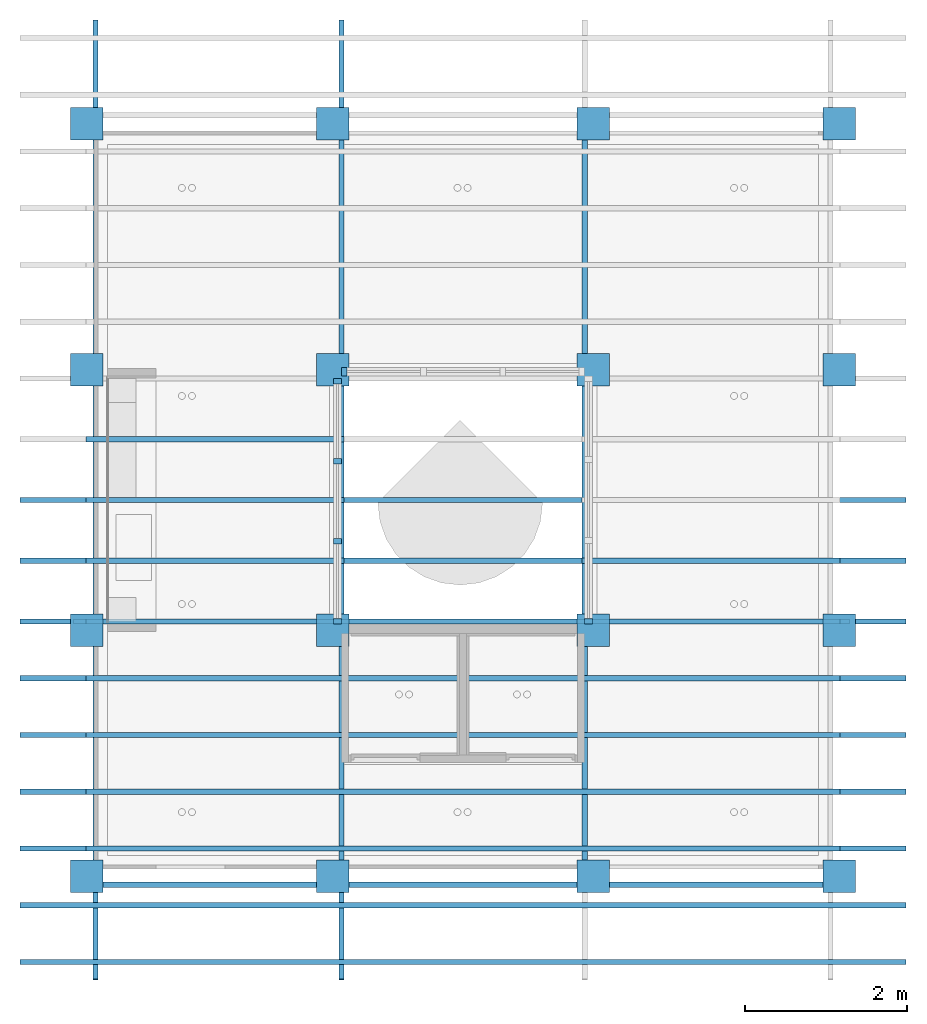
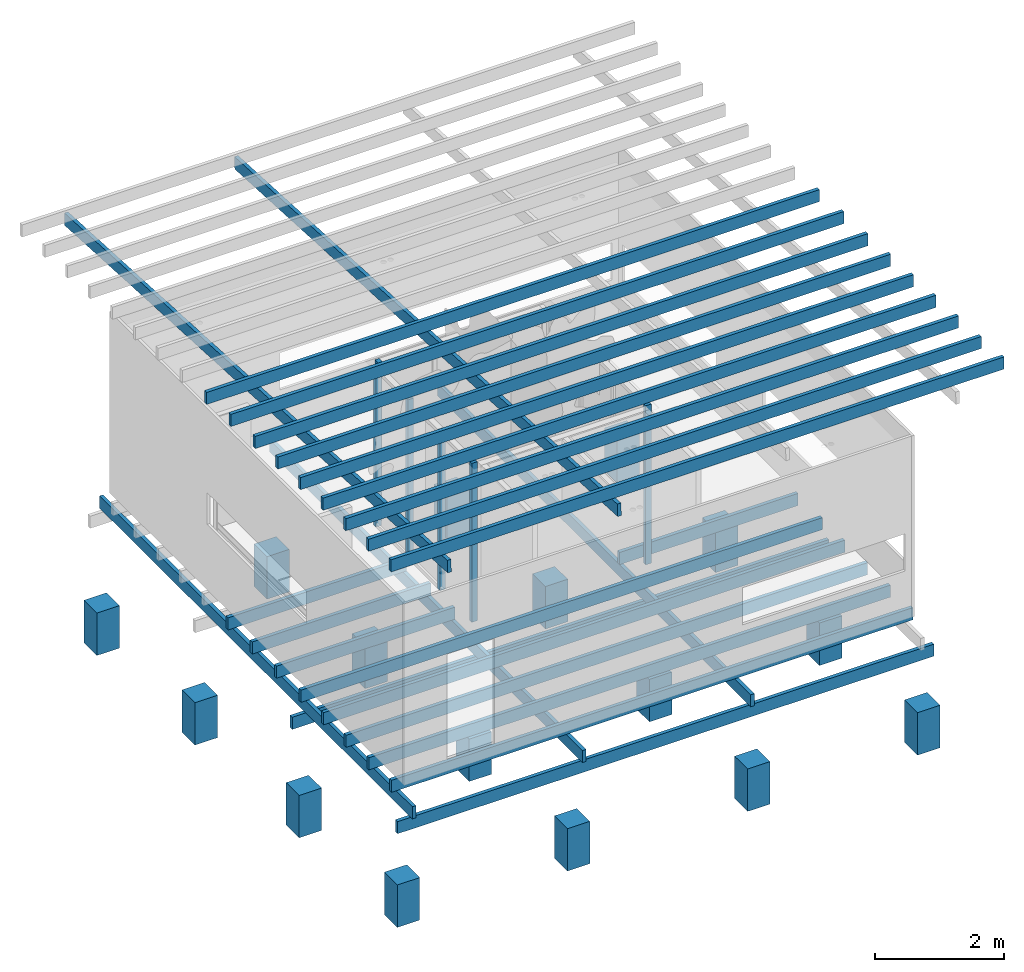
# One storey, part 1 of 5: 26 beams, 16 footings, 6 members, 3 elements without a shape of their own.
"""IFC2X3 building model written with IfcOpenShell, lengths in centimetres."""

import ifcopenshell
import ifcopenshell.guid

model = None  # the IFC model being written
_history = None  # IfcOwnerHistory: only IFC2X3 demands one
_inside = {}  # id of a spatial element -> (the spatial element, [elements in it])
_under = {}  # id of a project, library or spatial element -> (it, [spatial elements below it])
_declared = {}  # id of a project -> (the project, [libraries it declares])
_typed = {}  # id of a type object -> (the type object, [elements of that type])
_made_of = {}  # id of a material, layer set ... -> (it, [elements and type objects made of it])


def new_model(schema):
    """Start an empty IFC model of exactly this schema.

    Asked for "IFC4X3", IfcOpenShell would pick the latest addendum, in which some entities
    have other attributes; the version numbers below select the first issue.
    IFC2X3 requires an IfcOwnerHistory on every rooted entity: one is made here for all.
    """
    global model, _history
    if schema == "IFC4X3":
        model = ifcopenshell.file(schema_version=(4, 3, 0, 0))
    else:
        model = ifcopenshell.file(schema=schema)
    _inside.clear()
    _under.clear()
    _declared.clear()
    _typed.clear()
    _made_of.clear()
    _history = None
    if model.schema == "IFC2X3":
        org = make("IfcOrganization", Name="unknown")
        user = make(
            "IfcPersonAndOrganization",
            ThePerson=make("IfcPerson", FamilyName="unknown"),
            TheOrganization=org,
        )
        app = make(
            "IfcApplication",
            ApplicationDeveloper=org,
            Version="unknown",
            ApplicationFullName="unknown",
            ApplicationIdentifier="unknown",
        )
        _history = make(
            "IfcOwnerHistory",
            OwningUser=user,
            OwningApplication=app,
            ChangeAction="ADDED",
            CreationDate=0,
        )
    return model


def make(cls, **values):
    """One entity of the class cls with the attributes given. An attribute that is None is left unset."""
    return model.create_entity(
        cls, **{name: value for name, value in values.items() if value is not None}
    )


def entity(cls, *values):
    """Any entity or typed value of the class cls, its attributes in the order of the schema. None: left unset."""
    e = model.create_entity(cls)
    for i, value in enumerate(values):
        if value is not None:
            e[i] = value
    return e


def rooted(cls, **values):
    """An entity with a GlobalId (a new one), such as an element, a storey or a relation."""
    return make(cls, GlobalId=ifcopenshell.guid.new(), OwnerHistory=_history, **values)


def si_unit(unit_type, name, prefix=None):
    """IfcSIUnit, for example si_unit("LENGTHUNIT", "METRE", prefix="MILLI")."""
    return make("IfcSIUnit", UnitType=unit_type, Prefix=prefix, Name=name)


def converted_unit(unit_type, name, factor, base, dimensions=None, offset=None):
    """IfcConversionBasedUnit, such as the inch: factor (a typed value) times the base unit."""
    return make(
        "IfcConversionBasedUnit"
        if offset is None
        else "IfcConversionBasedUnitWithOffset",
        ConversionOffset=offset,
        Dimensions=None
        if dimensions is None
        else entity("IfcDimensionalExponents", *dimensions),
        UnitType=unit_type,
        Name=name,
        ConversionFactor=make(
            "IfcMeasureWithUnit", ValueComponent=factor, UnitComponent=base
        ),
    )


def derived_unit(unit_type, elements):
    """IfcDerivedUnit: a product of units, each with its exponent."""
    return make(
        "IfcDerivedUnit",
        Elements=[
            make("IfcDerivedUnitElement", Unit=unit, Exponent=power)
            for unit, power in elements
        ],
        UnitType=unit_type,
    )


def assignment(units):
    """IfcUnitAssignment: the units of a project."""
    return None if units is None else make("IfcUnitAssignment", Units=units)


def point(xyz):
    """IfcCartesianPoint."""
    return None if xyz is None else make("IfcCartesianPoint", Coordinates=xyz)


def direction(xyz):
    """IfcDirection."""
    return None if xyz is None else make("IfcDirection", DirectionRatios=xyz)


def frame(location, z_axis=None, x_axis=None):
    """IfcAxis2Placement3D, a coordinate frame: its origin and axes. An axis left out is left unset."""
    return make(
        "IfcAxis2Placement3D",
        Location=point(location),
        Axis=direction(z_axis),
        RefDirection=direction(x_axis),
    )


def frame_2d(location, x_axis=None):
    """IfcAxis2Placement2D, a coordinate frame in the plane: its origin and x axis."""
    return make(
        "IfcAxis2Placement2D", Location=point(location), RefDirection=direction(x_axis)
    )


def origin():
    """The frame at (0, 0, 0) with its axes left unset."""
    return frame((0.0, 0.0, 0.0))


def origin_2d_with_axis():
    """The frame at (0, 0) in the plane with the x axis (1, 0) written out."""
    return frame_2d((0.0, 0.0), x_axis=(1.0, 0.0))


def place(relative_to, where):
    """IfcLocalPlacement: puts the frame where relative to a parent placement (None: the world)."""
    return make(
        "IfcLocalPlacement", PlacementRelTo=relative_to, RelativePlacement=where
    )


def context(
    kind, dimensions, precision=None, world=None, true_north=None, identifier=None
):
    """IfcGeometricRepresentationContext, for example the 3D "Model" context."""
    return make(
        "IfcGeometricRepresentationContext",
        ContextIdentifier=identifier,
        ContextType=kind,
        CoordinateSpaceDimension=dimensions,
        Precision=precision,
        WorldCoordinateSystem=world,
        TrueNorth=true_north,
    )


def subcontext(parent, identifier, kind, view, scale=None):
    """IfcGeometricRepresentationSubContext, for example "Body" below "Model"."""
    return make(
        "IfcGeometricRepresentationSubContext",
        ContextIdentifier=identifier,
        ContextType=kind,
        ParentContext=parent,
        TargetScale=scale,
        TargetView=view,
    )


def project(units=None, contexts=None):
    """IfcProject with its units and contexts."""
    return rooted(
        "IfcProject",
        Name="project",
        RepresentationContexts=contexts,
        UnitsInContext=assignment(units),
    )


def spatial(cls, under=None, at=None, **own):
    """A site, building, storey or space (cls), placed at a placement, below another one or the project."""
    s = rooted(cls, ObjectPlacement=at, **own)
    if under is not None:
        _under.setdefault(under.id(), (under, []))[1].append(s)
    return s


def profile(cls, at=None, kind="AREA", **sizes):
    """A parametric profile (cls). Its sizes go by their IFC names, for example OverallWidth=200.0."""
    return make(cls, ProfileType=kind, Position=at, **sizes)


def rectangle(**sizes):
    """IfcRectangleProfileDef."""
    return profile("IfcRectangleProfileDef", **sizes)


def extrude(swept, where, along, depth):
    """IfcExtrudedAreaSolid: the profile swept, set in the frame where, extruded along a direction by depth."""
    return make(
        "IfcExtrudedAreaSolid",
        SweptArea=swept,
        Position=where,
        ExtrudedDirection=direction(along),
        Depth=depth,
    )


def shape(context_of_items, identifier, shape_type, items):
    """IfcShapeRepresentation: the items that make up one representation, for example the "Body"."""
    return make(
        "IfcShapeRepresentation",
        ContextOfItems=context_of_items,
        RepresentationIdentifier=identifier,
        RepresentationType=shape_type,
        Items=items,
    )


def source(mapping_origin, context_of_items, identifier, shape_type, items):
    """IfcRepresentationMap: a shape defined once, which mapped items show again and again."""
    return make(
        "IfcRepresentationMap",
        MappingOrigin=mapping_origin,
        MappedRepresentation=shape(context_of_items, identifier, shape_type, items),
    )


def transform(
    local_origin,
    x_axis=None,
    y_axis=None,
    z_axis=None,
    scale=None,
    scale2=None,
    scale3=None,
    uniform=True,
):
    """IfcCartesianTransformationOperator3D, or its non-uniform kind. x_axis, y_axis, z_axis: its Axis1, 2, 3."""
    if uniform:
        return make(
            "IfcCartesianTransformationOperator3D",
            Axis1=direction(x_axis),
            Axis2=direction(y_axis),
            LocalOrigin=point(local_origin),
            Scale=scale,
            Axis3=direction(z_axis),
        )
    return make(
        "IfcCartesianTransformationOperator3DnonUniform",
        Axis1=direction(x_axis),
        Axis2=direction(y_axis),
        LocalOrigin=point(local_origin),
        Scale=scale,
        Axis3=direction(z_axis),
        Scale2=scale2,
        Scale3=scale3,
    )


def mapped(mapping_source, mapping_target):
    """IfcMappedItem: shows the shape of a source again, moved by a transform."""
    return make(
        "IfcMappedItem", MappingSource=mapping_source, MappingTarget=mapping_target
    )


def material(Name=None, Category=None):
    """IfcMaterial."""
    return make("IfcMaterial", Name=Name, Category=Category)


def made_of(thing, what):
    """Note that an element or type object is made of a material, layer set ...; save() writes the relation."""
    if what is not None:
        _made_of.setdefault(what.id(), (what, []))[1].append(thing)
    return thing


def type_object(cls, material=None, **own):
    """A type object (cls), such as IfcWallType, which elements share."""
    return made_of(rooted(cls, **own), material)


def type_shapes(of_type, sources):
    """Give a type object the sources (RepresentationMaps) that its elements show as mapped items."""
    of_type.RepresentationMaps = sources


def element(
    cls,
    number,
    at=None,
    inside=None,
    cuts=None,
    type_object=None,
    material=None,
    context=None,
    identifier="Body",
    shape_type=None,
    held_by="IfcProductDefinitionShape",
    body=None,
    shapes=None,
    **own,
):
    """One element of the class cls, such as IfcWall. Its Tag is "e" and its number.

    at: its placement. inside: the storey or other place that contains it. cuts: it is an
    opening in that element (IfcRelVoidsElement). A single representation is given by context,
    identifier, shape_type and body (its items); several are given by shapes. held_by: the class
    of the entity that holds the representations. save() writes the other relations.
    """
    e = rooted(cls, Tag="e%d" % number, ObjectPlacement=at, **own)
    if body is not None:
        shapes = [shape(context, identifier, shape_type, body)]
    if shapes is not None:
        e.Representation = make(held_by, Representations=shapes)
    if inside is not None:
        _inside.setdefault(inside.id(), (inside, []))[1].append(e)
    if cuts is not None:
        rooted(
            "IfcRelVoidsElement", RelatingBuildingElement=cuts, RelatedOpeningElement=e
        )
    if type_object is not None:
        _typed.setdefault(type_object.id(), (type_object, []))[1].append(e)
    return made_of(e, material)


def aggregate(whole, parts):
    """IfcRelAggregates: a whole, such as a stair, and the parts it consists of."""
    return rooted("IfcRelAggregates", RelatingObject=whole, RelatedObjects=parts)


def save(model, path):
    """Write the relations noted so far, then the file.

    IfcRelAggregates (storeys below a building ...), IfcRelContainedInSpatialStructure (elements
    in a storey), IfcRelDefinesByType, IfcRelAssociatesMaterial and IfcRelDeclares: one each for
    every whole, place, type object, material and project.
    """
    for whole, parts in _under.values():
        aggregate(whole, parts)
    for where, things in _inside.values():
        rooted(
            "IfcRelContainedInSpatialStructure",
            RelatedElements=things,
            RelatingStructure=where,
        )
    for kind, things in _typed.values():
        rooted("IfcRelDefinesByType", RelatedObjects=things, RelatingType=kind)
    for what, things in _made_of.values():
        rooted("IfcRelAssociatesMaterial", RelatedObjects=things, RelatingMaterial=what)
    for by, libraries in _declared.values():
        rooted("IfcRelDeclares", RelatingContext=by, RelatedDefinitions=libraries)
    model.write(path)


model = new_model("IFC2X3")

# Units and contexts
model_context = context("Model", 3, precision=0.001, world=origin(), true_north=direction((6.123233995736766e-17, 1.0)))
body_context = subcontext(model_context, "Body", "Model", "MODEL_VIEW")
ifc_project = project(units=[si_unit("LENGTHUNIT", "METRE", prefix="CENTI"), si_unit("AREAUNIT", "SQUARE_METRE"), si_unit("VOLUMEUNIT", "CUBIC_METRE"), converted_unit("PLANEANGLEUNIT", "DEGREE", entity("IfcPlaneAngleMeasure", 0.017453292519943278), si_unit("PLANEANGLEUNIT", "RADIAN"), dimensions=[0, 0, 0, 0, 0, 0, 0]), si_unit("POWERUNIT", "WATT"), derived_unit("USERDEFINED", [(si_unit("MASSUNIT", "GRAM", prefix="KILO"), 1), (si_unit("TIMEUNIT", "SECOND"), -3)]), si_unit("FORCEUNIT", "NEWTON", prefix="KILO"), derived_unit("THERMALTRANSMITTANCEUNIT", [(si_unit("MASSUNIT", "GRAM", prefix="KILO"), 1), (si_unit("TIMEUNIT", "SECOND"), -3), (si_unit("THERMODYNAMICTEMPERATUREUNIT", "KELVIN"), -1)]), derived_unit("USERDEFINED", [(si_unit("MASSUNIT", "GRAM", prefix="KILO"), 1), (si_unit("THERMODYNAMICTEMPERATUREUNIT", "KELVIN"), -1), (si_unit("TIMEUNIT", "SECOND"), -2)]), derived_unit("THERMALRESISTANCEUNIT", [(si_unit("MASSUNIT", "GRAM", prefix="KILO"), -1), (si_unit("TIMEUNIT", "SECOND"), 3), (si_unit("THERMODYNAMICTEMPERATUREUNIT", "KELVIN"), 1)]), derived_unit("USERDEFINED", [(si_unit("MASSUNIT", "GRAM", prefix="KILO"), -1), (si_unit("TIMEUNIT", "SECOND"), 3), (si_unit("LENGTHUNIT", "METRE"), -2), (si_unit("LUMINOUSFLUXUNIT", "LUMEN"), 1)]), si_unit("LUMINOUSFLUXUNIT", "LUMEN")], contexts=[model_context])

# Site, building, storey
site_placement = place(None, origin())
site = spatial("IfcSite", under=ifc_project, at=site_placement, Name="Default", CompositionType="ELEMENT")
building_placement = place(site_placement, origin())
building = spatial("IfcBuilding", under=site, at=building_placement, Name="Workshop Hbaitáculo - Refugio Tierra del Fuego", CompositionType="ELEMENT")
storey_placement = place(building_placement, frame((0.0, 0.0, 100.0)))
storey = spatial("IfcBuildingStorey", under=building, at=storey_placement, Name="NOG_PISO 1", CompositionType="ELEMENT", Elevation=100.0)

# Footings
ifc_material_1 = material(Name="Concrete, Cast-in-Place gray")
type_product_1 = type_object("IfcTypeProduct", Name="Footing-Rectangular:80X40X40cm", material=ifc_material_1)
shared_shape_1 = source(origin(), body_context, "Body", "SweptSolid", [
    extrude(rectangle(XDim=39.99999999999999, YDim=40.0, at=origin_2d_with_axis()), frame((0.0, 0.0, -80.0), z_axis=(0.0, 0.0, 1.0), x_axis=(-1.0, 0.0, 0.0)), (0.0, 0.0, 1.0), 80.0),
])
type_shapes(type_product_1, [shared_shape_1])
for number, where, name in (
    (1, (914.0000000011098, -605.0, -160.0), "Footing-Rectangular:80X40X40cm"),
    (2, (610.7500000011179, -605.0, -160.0), "Footing-Rectangular:80X40X40cm"),
    (3, (289.2499999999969, -605.0, -160.0), "Footing-Rectangular:80X40X40cm"),
    (4, (-14.0, -605.0, -160.0), "Footing-Rectangular:80X40X40cm"),
):
    element("IfcFooting", number, at=place(storey_placement, frame(where)), inside=storey, type_object=type_product_1, material=ifc_material_1, Name=name, ObjectType="Footing-Rectangular:80X40X40cm", PredefinedType="NOTDEFINED", context=body_context, shape_type="MappedRepresentation", body=[
        mapped(shared_shape_1, transform((0.0, 0.0, 0.0), scale=1.0)),
    ])
type_product_2 = type_object("IfcTypeProduct", Name="Footing-Rectangular:80X40X40cm", material=ifc_material_1)
shared_shape_2 = source(origin(), body_context, "Body", "SweptSolid", [
    extrude(rectangle(XDim=40.0, YDim=40.0, at=origin_2d_with_axis()), frame((914.00000000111, -301.75000000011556, -155.0), z_axis=(0.0, 0.0, 1.0), x_axis=(-1.0, 0.0, 0.0)), (0.0, 0.0, 1.0), 80.0),
])
type_shapes(type_product_2, [shared_shape_2])
footing_1_placement = place(storey_placement, frame((0.0, 0.0, -100.0)))
element("IfcFooting", 5, at=footing_1_placement, inside=storey, type_object=type_product_2, material=ifc_material_1, Name="Footing-Rectangular:80X40X40cm", ObjectType="Footing-Rectangular:80X40X40cm", PredefinedType="NOTDEFINED", context=body_context, shape_type="MappedRepresentation", body=[
    mapped(shared_shape_2, transform((0.0, 0.0, 0.0), scale=1.0)),
])
type_product_3 = type_object("IfcTypeProduct", Name="Footing-Rectangular:80X40X40cm", material=ifc_material_1)
shared_shape_3 = source(origin(), body_context, "Body", "SweptSolid", [
    extrude(rectangle(XDim=40.0, YDim=40.0, at=origin_2d_with_axis()), frame((914.0000000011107, 19.74999999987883, -175.0), z_axis=(0.0, 0.0, 1.0), x_axis=(-1.0, 0.0, 0.0)), (0.0, 0.0, 1.0), 80.0),
])
type_shapes(type_product_3, [shared_shape_3])
footing_2_placement = place(storey_placement, frame((0.0, 0.0, -100.0)))
element("IfcFooting", 6, at=footing_2_placement, inside=storey, type_object=type_product_3, material=ifc_material_1, Name="Footing-Rectangular:80X40X40cm", ObjectType="Footing-Rectangular:80X40X40cm", PredefinedType="NOTDEFINED", context=body_context, shape_type="MappedRepresentation", body=[
    mapped(shared_shape_3, transform((0.0, 0.0, 0.0), scale=1.0)),
])
type_product_4 = type_object("IfcTypeProduct", Name="Footing-Rectangular:80X40X40cm", material=ifc_material_1)
shared_shape_4 = source(origin(), body_context, "Body", "SweptSolid", [
    extrude(rectangle(XDim=40.0, YDim=40.0, at=origin_2d_with_axis()), frame((914.0000000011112, 323.0, -190.0), z_axis=(0.0, 0.0, 1.0), x_axis=(-1.0, 0.0, 0.0)), (0.0, 0.0, 1.0), 80.0),
])
type_shapes(type_product_4, [shared_shape_4])
footing_3_placement = place(storey_placement, frame((0.0, 0.0, -100.0)))
element("IfcFooting", 7, at=footing_3_placement, inside=storey, type_object=type_product_4, material=ifc_material_1, Name="Footing-Rectangular:80X40X40cm", ObjectType="Footing-Rectangular:80X40X40cm", PredefinedType="NOTDEFINED", context=body_context, shape_type="MappedRepresentation", body=[
    mapped(shared_shape_4, transform((0.0, 0.0, 0.0), scale=1.0)),
])
type_product_5 = type_object("IfcTypeProduct", Name="Footing-Rectangular:80X40X40cm", material=ifc_material_1)
shared_shape_5 = source(origin(), body_context, "Body", "SweptSolid", [
    extrude(rectangle(XDim=40.0, YDim=40.0, at=origin_2d_with_axis()), frame((610.7500000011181, -301.7500000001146, -155.0), z_axis=(0.0, 0.0, 1.0), x_axis=(-1.0, 0.0, 0.0)), (0.0, 0.0, 1.0), 80.0),
])
type_shapes(type_product_5, [shared_shape_5])
footing_4_placement = place(storey_placement, frame((0.0, 0.0, -100.0)))
element("IfcFooting", 8, at=footing_4_placement, inside=storey, type_object=type_product_5, material=ifc_material_1, Name="Footing-Rectangular:80X40X40cm", ObjectType="Footing-Rectangular:80X40X40cm", PredefinedType="NOTDEFINED", context=body_context, shape_type="MappedRepresentation", body=[
    mapped(shared_shape_5, transform((0.0, 0.0, 0.0), scale=1.0)),
])
type_product_6 = type_object("IfcTypeProduct", Name="Footing-Rectangular:80X40X40cm", material=ifc_material_1)
shared_shape_6 = source(origin(), body_context, "Body", "SweptSolid", [
    extrude(rectangle(XDim=40.0, YDim=40.0, at=origin_2d_with_axis()), frame((610.7500000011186, 19.749999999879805, -175.0), z_axis=(0.0, 0.0, 1.0), x_axis=(-1.0, 0.0, 0.0)), (0.0, 0.0, 1.0), 80.0),
])
type_shapes(type_product_6, [shared_shape_6])
footing_5_placement = place(storey_placement, frame((0.0, 0.0, -100.0)))
element("IfcFooting", 9, at=footing_5_placement, inside=storey, type_object=type_product_6, material=ifc_material_1, Name="Footing-Rectangular:80X40X40cm", ObjectType="Footing-Rectangular:80X40X40cm", PredefinedType="NOTDEFINED", context=body_context, shape_type="MappedRepresentation", body=[
    mapped(shared_shape_6, transform((0.0, 0.0, 0.0), scale=1.0)),
])
type_product_7 = type_object("IfcTypeProduct", Name="Footing-Rectangular:80X40X40cm", material=ifc_material_1)
shared_shape_7 = source(origin(), body_context, "Body", "SweptSolid", [
    extrude(rectangle(XDim=40.0, YDim=40.0, at=origin_2d_with_axis()), frame((610.750000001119, 323.0, -190.0), z_axis=(0.0, 0.0, 1.0), x_axis=(-1.0, 0.0, 0.0)), (0.0, 0.0, 1.0), 80.0),
])
type_shapes(type_product_7, [shared_shape_7])
footing_6_placement = place(storey_placement, frame((0.0, 0.0, -100.0)))
element("IfcFooting", 10, at=footing_6_placement, inside=storey, type_object=type_product_7, material=ifc_material_1, Name="Footing-Rectangular:80X40X40cm", ObjectType="Footing-Rectangular:80X40X40cm", PredefinedType="NOTDEFINED", context=body_context, shape_type="MappedRepresentation", body=[
    mapped(shared_shape_7, transform((0.0, 0.0, 0.0), scale=1.0)),
])
type_product_8 = type_object("IfcTypeProduct", Name="Footing-Rectangular:80X40X40cm", material=ifc_material_1)
shared_shape_8 = source(origin(), body_context, "Body", "SweptSolid", [
    extrude(rectangle(XDim=40.0, YDim=40.0, at=origin_2d_with_axis()), frame((289.24999999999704, -301.7500000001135, -155.0), z_axis=(0.0, 0.0, 1.0), x_axis=(-1.0, 0.0, 0.0)), (0.0, 0.0, 1.0), 80.0),
])
type_shapes(type_product_8, [shared_shape_8])
footing_7_placement = place(storey_placement, frame((0.0, 0.0, -100.0)))
element("IfcFooting", 11, at=footing_7_placement, inside=storey, type_object=type_product_8, material=ifc_material_1, Name="Footing-Rectangular:80X40X40cm", ObjectType="Footing-Rectangular:80X40X40cm", PredefinedType="NOTDEFINED", context=body_context, shape_type="MappedRepresentation", body=[
    mapped(shared_shape_8, transform((0.0, 0.0, 0.0), scale=1.0)),
])
type_product_9 = type_object("IfcTypeProduct", Name="Footing-Rectangular:80X40X40cm", material=ifc_material_1)
shared_shape_9 = source(origin(), body_context, "Body", "SweptSolid", [
    extrude(rectangle(XDim=40.0, YDim=40.0, at=origin_2d_with_axis()), frame((289.24999999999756, 19.749999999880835, -175.0), z_axis=(0.0, 0.0, 1.0), x_axis=(-1.0, 0.0, 0.0)), (0.0, 0.0, 1.0), 80.0),
])
type_shapes(type_product_9, [shared_shape_9])
footing_8_placement = place(storey_placement, frame((0.0, 0.0, -100.0)))
element("IfcFooting", 12, at=footing_8_placement, inside=storey, type_object=type_product_9, material=ifc_material_1, Name="Footing-Rectangular:80X40X40cm", ObjectType="Footing-Rectangular:80X40X40cm", PredefinedType="NOTDEFINED", context=body_context, shape_type="MappedRepresentation", body=[
    mapped(shared_shape_9, transform((0.0, 0.0, 0.0), scale=1.0)),
])
type_product_10 = type_object("IfcTypeProduct", Name="Footing-Rectangular:80X40X40cm", material=ifc_material_1)
shared_shape_10 = source(origin(), body_context, "Body", "SweptSolid", [
    extrude(rectangle(XDim=40.0, YDim=40.0, at=origin_2d_with_axis()), frame((289.249999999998, 323.0, -190.0), z_axis=(0.0, 0.0, 1.0), x_axis=(-1.0, 0.0, 0.0)), (0.0, 0.0, 1.0), 80.0),
])
type_shapes(type_product_10, [shared_shape_10])
footing_9_placement = place(storey_placement, frame((0.0, 0.0, -100.0)))
element("IfcFooting", 13, at=footing_9_placement, inside=storey, type_object=type_product_10, material=ifc_material_1, Name="Footing-Rectangular:80X40X40cm", ObjectType="Footing-Rectangular:80X40X40cm", PredefinedType="NOTDEFINED", context=body_context, shape_type="MappedRepresentation", body=[
    mapped(shared_shape_10, transform((0.0, 0.0, 0.0), scale=1.0)),
])
type_product_11 = type_object("IfcTypeProduct", Name="Footing-Rectangular:80X40X40cm", material=ifc_material_1)
shared_shape_11 = source(origin(), body_context, "Body", "SweptSolid", [
    extrude(rectangle(XDim=39.99999999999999, YDim=40.0, at=frame_2d((3.552713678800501e-15, 0.0), x_axis=(1.0, 0.0))), frame((-14.0, -301.75000000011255, -155.0), z_axis=(0.0, 0.0, 1.0), x_axis=(-1.0, 0.0, 0.0)), (0.0, 0.0, 1.0), 80.0),
])
type_shapes(type_product_11, [shared_shape_11])
footing_10_placement = place(storey_placement, frame((0.0, 0.0, -100.0)))
element("IfcFooting", 14, at=footing_10_placement, inside=storey, type_object=type_product_11, material=ifc_material_1, Name="Footing-Rectangular:80X40X40cm", ObjectType="Footing-Rectangular:80X40X40cm", PredefinedType="NOTDEFINED", context=body_context, shape_type="MappedRepresentation", body=[
    mapped(shared_shape_11, transform((0.0, 0.0, 0.0), scale=1.0)),
])
type_product_12 = type_object("IfcTypeProduct", Name="Footing-Rectangular:80X40X40cm", material=ifc_material_1)
shared_shape_12 = source(origin(), body_context, "Body", "SweptSolid", [
    extrude(rectangle(XDim=39.99999999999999, YDim=40.0, at=frame_2d((3.552713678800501e-15, 0.0), x_axis=(1.0, 0.0))), frame((-14.0, 19.74999999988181, -175.0), z_axis=(0.0, 0.0, 1.0), x_axis=(-1.0, 0.0, 0.0)), (0.0, 0.0, 1.0), 80.0),
])
type_shapes(type_product_12, [shared_shape_12])
footing_11_placement = place(storey_placement, frame((0.0, 0.0, -100.0)))
element("IfcFooting", 15, at=footing_11_placement, inside=storey, type_object=type_product_12, material=ifc_material_1, Name="Footing-Rectangular:80X40X40cm", ObjectType="Footing-Rectangular:80X40X40cm", PredefinedType="NOTDEFINED", context=body_context, shape_type="MappedRepresentation", body=[
    mapped(shared_shape_12, transform((0.0, 0.0, 0.0), scale=1.0)),
])
type_product_13 = type_object("IfcTypeProduct", Name="Footing-Rectangular:80X40X40cm", material=ifc_material_1)
shared_shape_13 = source(origin(), body_context, "Body", "SweptSolid", [
    extrude(rectangle(XDim=39.99999999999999, YDim=40.0, at=frame_2d((3.552713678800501e-15, 0.0), x_axis=(1.0, 0.0))), frame((-14.0, 323.0, -190.0), z_axis=(0.0, 0.0, 1.0), x_axis=(-1.0, 0.0, 0.0)), (0.0, 0.0, 1.0), 80.0),
])
type_shapes(type_product_13, [shared_shape_13])
footing_12_placement = place(storey_placement, frame((0.0, 0.0, -100.0)))
element("IfcFooting", 16, at=footing_12_placement, inside=storey, type_object=type_product_13, material=ifc_material_1, Name="Footing-Rectangular:80X40X40cm", ObjectType="Footing-Rectangular:80X40X40cm", PredefinedType="NOTDEFINED", context=body_context, shape_type="MappedRepresentation", body=[
    mapped(shared_shape_13, transform((0.0, 0.0, 0.0), scale=1.0)),
])

# Beams
ifc_material_2 = material(Name="Madera Oscura")
beam_type = type_object("IfcBeamType", Name="Arauco Hilam Viga:Hilam Viga 65x228 mm", PredefinedType="BEAM")
beam_1_placement = place(storey_placement, frame((-46.25109788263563, -291.0, 0.0)))
element("IfcBeam", 17, at=beam_1_placement, inside=storey, type_object=beam_type, material=ifc_material_2, Name="Arauco Hilam Viga:Hilam Viga 65x228 mm", ObjectType="Arauco Hilam Viga:Hilam Viga 65x228 mm", context=body_context, shape_type="SweptSolid", body=[
    extrude(rectangle(XDim=22.799999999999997, YDim=6.500000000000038, at=origin_2d_with_axis()), frame((31.25109788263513, 0.0, -11.400000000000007), z_axis=(1.0, 0.0, 0.0), x_axis=(0.0, 0.0, -1.0)), (0.0, 0.0, 1.0), 929.9999999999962),
])
beam_2_placement = place(storey_placement, frame((-46.25109788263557, -216.0, 0.0)))
element("IfcBeam", 18, at=beam_2_placement, inside=storey, type_object=beam_type, material=ifc_material_2, Name="Arauco Hilam Viga:Hilam Viga 65x228 mm", ObjectType="Arauco Hilam Viga:Hilam Viga 65x228 mm", context=body_context, shape_type="SweptSolid", body=[
    extrude(rectangle(XDim=22.8, YDim=6.500000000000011, at=frame_2d((0.0, -2.708944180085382e-14), x_axis=(1.0, 0.0))), frame((31.25109788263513, 0.0, -11.400000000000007), z_axis=(1.0, 0.0, 0.0), x_axis=(0.0, 0.0, -1.0)), (0.0, 0.0, 1.0), 318.24999999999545),
])
beam_3_placement = place(storey_placement, frame((-46.25109788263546, -141.0, 0.0)))
element("IfcBeam", 19, at=beam_3_placement, inside=storey, type_object=beam_type, material=ifc_material_2, Name="Arauco Hilam Viga:Hilam Viga 65x228 mm", ObjectType="Arauco Hilam Viga:Hilam Viga 65x228 mm", context=body_context, shape_type="SweptSolid", body=[
    extrude(rectangle(XDim=22.8, YDim=6.500000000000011, at=origin_2d_with_axis()), frame((31.251097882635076, 0.0, -11.400000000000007), z_axis=(1.0, 0.0, 0.0), x_axis=(0.0, 0.0, -1.0)), (0.0, 0.0, 1.0), 318.24999999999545),
])
beam_4_placement = place(storey_placement, frame((-46.25109788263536, -66.0, 0.0)))
element("IfcBeam", 20, at=beam_4_placement, inside=storey, type_object=beam_type, material=ifc_material_2, Name="Arauco Hilam Viga:Hilam Viga 65x228 mm", ObjectType="Arauco Hilam Viga:Hilam Viga 65x228 mm", context=body_context, shape_type="SweptSolid", body=[
    extrude(rectangle(XDim=22.8, YDim=6.499999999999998, at=frame_2d((0.0, 6.8833827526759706e-15), x_axis=(1.0, 0.0))), frame((31.251097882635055, 0.0, -11.400000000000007), z_axis=(1.0, 0.0, 0.0), x_axis=(0.0, 0.0, -1.0)), (0.0, 0.0, 1.0), 318.2499999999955),
])
beam_5_placement = place(storey_placement, frame((-46.25109788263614, -291.0, 0.0)))
element("IfcBeam", 21, at=beam_5_placement, inside=storey, type_object=beam_type, material=ifc_material_2, Name="Arauco Hilam Viga:Hilam Viga 65x228 mm", ObjectType="Arauco Hilam Viga:Hilam Viga 65x228 mm", context=body_context, shape_type="SweptSolid", body=[
    extrude(rectangle(XDim=22.80000000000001, YDim=6.499999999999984, at=frame_2d((0.0, -2.708944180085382e-14), x_axis=(1.0, 0.0))), frame((31.251097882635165, 0.0, -11.400000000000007), z_axis=(1.0, 0.0, 0.0), x_axis=(0.0, 0.0, -1.0)), (0.0, 0.0, 1.0), 929.9999999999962),
])
beam_6_placement = place(storey_placement, frame((-46.251097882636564, -361.0, 0.0)))
element("IfcBeam", 22, at=beam_6_placement, inside=storey, type_object=beam_type, material=ifc_material_2, Name="Arauco Hilam Viga:Hilam Viga 65x228 mm", ObjectType="Arauco Hilam Viga:Hilam Viga 65x228 mm", context=body_context, shape_type="SweptSolid", body=[
    extrude(rectangle(XDim=22.80000000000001, YDim=6.499999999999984, at=frame_2d((0.0, -2.708944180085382e-14), x_axis=(1.0, 0.0))), frame((31.251097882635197, 0.0, -11.400000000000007), z_axis=(1.0, 0.0, 0.0), x_axis=(0.0, 0.0, -1.0)), (0.0, 0.0, 1.0), 929.9999999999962),
])
beam_7_placement = place(storey_placement, frame((-46.25109788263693, -431.0, 0.0)))
element("IfcBeam", 23, at=beam_7_placement, inside=storey, type_object=beam_type, material=ifc_material_2, Name="Arauco Hilam Viga:Hilam Viga 65x228 mm", ObjectType="Arauco Hilam Viga:Hilam Viga 65x228 mm", context=body_context, shape_type="SweptSolid", body=[
    extrude(rectangle(XDim=22.80000000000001, YDim=6.499999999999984, at=frame_2d((0.0, -2.708944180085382e-14), x_axis=(1.0, 0.0))), frame((31.25109788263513, 0.0, -11.400000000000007), z_axis=(1.0, 0.0, 0.0), x_axis=(0.0, 0.0, -1.0)), (0.0, 0.0, 1.0), 929.9999999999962),
])
for number, where, name in (
    (24, (-46.25109788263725, -501.0, 0.0), "Arauco Hilam Viga:Hilam Viga 65x228 mm"),
    (25, (-46.25109788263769, -571.0, 0.0), "Arauco Hilam Viga:Hilam Viga 65x228 mm"),
):
    element("IfcBeam", number, at=place(storey_placement, frame(where)), inside=storey, type_object=beam_type, material=ifc_material_2, Name=name, ObjectType="Arauco Hilam Viga:Hilam Viga 65x228 mm", context=body_context, shape_type="SweptSolid", body=[
        extrude(rectangle(XDim=22.800000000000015, YDim=6.500000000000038, at=origin_2d_with_axis()), frame((31.251097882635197, 0.0, -11.400000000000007), z_axis=(1.0, 0.0, 0.0), x_axis=(0.0, 0.0, -1.0)), (0.0, 0.0, 1.0), 929.9999999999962),
    ])
beam_8_placement = place(storey_placement, frame((-3.2499999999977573, 318.10615008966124, -22.8), z_axis=(0.0, 0.0, 1.0), x_axis=(0.0, -1.0, 0.0)))
element("IfcBeam", 26, at=beam_8_placement, inside=storey, type_object=beam_type, material=ifc_material_2, Name="Arauco Hilam Viga:Hilam Viga 65x228 mm", ObjectType="Arauco Hilam Viga:Hilam Viga 65x228 mm", context=body_context, shape_type="SweptSolid", body=[
    extrude(rectangle(XDim=22.8, YDim=6.499999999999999, at=frame_2d((-3.552713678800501e-15, 4.440892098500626e-16), x_axis=(1.0, 0.0))), frame((-24.56143479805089, 0.0, -11.399999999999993), z_axis=(1.0, 0.0, 0.0), x_axis=(0.0, 0.0, -1.0)), (0.0, 0.0, 1.0), 966.66758488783),
])
beam_9_placement = place(storey_placement, frame((-96.13781449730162, -615.7500000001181, -45.60000000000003)))
element("IfcBeam", 27, at=beam_9_placement, inside=storey, type_object=beam_type, material=ifc_material_2, Name="Arauco Hilam Viga:Hilam Viga 65x228 mm", ObjectType="Arauco Hilam Viga:Hilam Viga 65x228 mm", context=body_context, shape_type="SweptSolid", body=[
    extrude(rectangle(XDim=22.8, YDim=6.500000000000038, at=origin_2d_with_axis()), frame((65.77628155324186, 0.0, -11.4), z_axis=(1.0, 0.0, 0.0), x_axis=(0.0, 0.0, -1.0)), (0.0, 0.0, 1.0), 956.8615329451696),
])
beam_10_placement = place(storey_placement, frame((300.0, 318.1061500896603, -22.8), z_axis=(0.0, 0.0, 1.0), x_axis=(0.0, -1.0, 0.0)))
element("IfcBeam", 28, at=beam_10_placement, inside=storey, type_object=beam_type, material=ifc_material_2, Name="Arauco Hilam Viga:Hilam Viga 65x228 mm", ObjectType="Arauco Hilam Viga:Hilam Viga 65x228 mm", context=body_context, shape_type="SweptSolid", body=[
    extrude(rectangle(XDim=22.8, YDim=6.499999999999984, at=frame_2d((-3.552713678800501e-15, -2.708944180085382e-14), x_axis=(1.0, 0.0))), frame((-24.56143479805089, 0.0, -11.399999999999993), z_axis=(1.0, 0.0, 0.0), x_axis=(0.0, 0.0, -1.0)), (0.0, 0.0, 1.0), 966.66758488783),
])
beam_11_placement = place(storey_placement, frame((600.000000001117, 318.10615008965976, -22.8), z_axis=(0.0, 0.0, 1.0), x_axis=(0.0, -1.0, 0.0)))
element("IfcBeam", 29, at=beam_11_placement, inside=storey, type_object=beam_type, material=ifc_material_2, Name="Arauco Hilam Viga:Hilam Viga 65x228 mm", ObjectType="Arauco Hilam Viga:Hilam Viga 65x228 mm", context=body_context, shape_type="SweptSolid", body=[
    extrude(rectangle(XDim=22.800000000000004, YDim=6.500000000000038, at=frame_2d((-3.552713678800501e-15, -1.0835776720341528e-13), x_axis=(1.0, 0.0))), frame((-24.56143479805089, 0.0, -11.399999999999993), z_axis=(1.0, 0.0, 0.0), x_axis=(0.0, 0.0, -1.0)), (0.0, 0.0, 1.0), 966.66758488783),
])
beam_12_placement = place(storey_placement, frame((-96.13781449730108, -291.0, -45.60000000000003)))
element("IfcBeam", 30, at=beam_12_placement, inside=storey, type_object=beam_type, material=ifc_material_2, Name="Arauco Hilam Viga:Hilam Viga 65x228 mm", ObjectType="Arauco Hilam Viga:Hilam Viga 65x228 mm", context=body_context, shape_type="SweptSolid", body=[
    extrude(rectangle(XDim=22.8, YDim=6.499999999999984, at=frame_2d((0.0, -2.708944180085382e-14), x_axis=(1.0, 0.0))), frame((65.7762815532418, 0.0, -11.4), z_axis=(1.0, 0.0, 0.0), x_axis=(0.0, 0.0, -1.0)), (0.0, 0.0, 1.0), 956.8615329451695),
])
beam_13_placement = place(storey_placement, frame((-127.75109788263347, -216.0, 503.0200000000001)))
element("IfcBeam", 31, at=beam_13_placement, inside=storey, type_object=beam_type, material=ifc_material_2, Name="Arauco Hilam Viga:Hilam Viga 65x228 mm", ObjectType="Arauco Hilam Viga:Hilam Viga 65x228 mm", context=body_context, shape_type="SweptSolid", body=[
    extrude(rectangle(XDim=22.800000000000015, YDim=6.500000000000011, at=frame_2d((0.0, -1.354472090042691e-14), x_axis=(1.0, 0.0))), frame((31.251097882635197, 0.0, -11.400000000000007), z_axis=(1.0, 0.0, 0.0), x_axis=(0.0, 0.0, -1.0)), (0.0, 0.0, 1.0), 1093.0000000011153),
])
beam_14_placement = place(storey_placement, frame((-127.75109788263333, -141.0, 499.08000000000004)))
element("IfcBeam", 32, at=beam_14_placement, inside=storey, type_object=beam_type, material=ifc_material_2, Name="Arauco Hilam Viga:Hilam Viga 65x228 mm", ObjectType="Arauco Hilam Viga:Hilam Viga 65x228 mm", context=body_context, shape_type="SweptSolid", body=[
    extrude(rectangle(XDim=22.800000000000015, YDim=6.500000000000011, at=frame_2d((0.0, -1.354472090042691e-14), x_axis=(1.0, 0.0))), frame((31.251097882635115, 0.0, -11.400000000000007), z_axis=(1.0, 0.0, 0.0), x_axis=(0.0, 0.0, -1.0)), (0.0, 0.0, 1.0), 1093.0000000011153),
])
for number, where, name in (
    (33, (-127.75109788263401, -291.0, 506.96), "Arauco Hilam Viga:Hilam Viga 65x228 mm"),
    (34, (-127.75109788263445, -361.0, 510.64), "Arauco Hilam Viga:Hilam Viga 65x228 mm"),
):
    element("IfcBeam", number, at=place(storey_placement, frame(where)), inside=storey, type_object=beam_type, material=ifc_material_2, Name=name, ObjectType="Arauco Hilam Viga:Hilam Viga 65x228 mm", context=body_context, shape_type="SweptSolid", body=[
        extrude(rectangle(XDim=22.80000000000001, YDim=6.499999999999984, at=frame_2d((0.0, -2.708944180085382e-14), x_axis=(1.0, 0.0))), frame((31.251097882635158, 0.0, -11.400000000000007), z_axis=(1.0, 0.0, 0.0), x_axis=(0.0, 0.0, -1.0)), (0.0, 0.0, 1.0), 1093.0000000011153),
    ])
beam_15_placement = place(storey_placement, frame((-127.7510978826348, -431.0, 514.31)))
element("IfcBeam", 35, at=beam_15_placement, inside=storey, type_object=beam_type, material=ifc_material_2, Name="Arauco Hilam Viga:Hilam Viga 65x228 mm", ObjectType="Arauco Hilam Viga:Hilam Viga 65x228 mm", context=body_context, shape_type="SweptSolid", body=[
    extrude(rectangle(XDim=22.80000000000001, YDim=6.499999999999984, at=frame_2d((0.0, -2.708944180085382e-14), x_axis=(1.0, 0.0))), frame((31.25109788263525, 0.0, -11.400000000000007), z_axis=(1.0, 0.0, 0.0), x_axis=(0.0, 0.0, -1.0)), (0.0, 0.0, 1.0), 1093.0000000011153),
])
beam_16_placement = place(storey_placement, frame((-127.75109788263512, -501.0, 517.99)))
element("IfcBeam", 36, at=beam_16_placement, inside=storey, type_object=beam_type, material=ifc_material_2, Name="Arauco Hilam Viga:Hilam Viga 65x228 mm", ObjectType="Arauco Hilam Viga:Hilam Viga 65x228 mm", context=body_context, shape_type="SweptSolid", body=[
    extrude(rectangle(XDim=22.800000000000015, YDim=6.500000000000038, at=origin_2d_with_axis()), frame((31.251097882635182, 0.0, -11.400000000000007), z_axis=(1.0, 0.0, 0.0), x_axis=(0.0, 0.0, -1.0)), (0.0, 0.0, 1.0), 1093.0000000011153),
])
beam_17_placement = place(storey_placement, frame((-127.75109788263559, -571.0, 521.67)))
element("IfcBeam", 37, at=beam_17_placement, inside=storey, type_object=beam_type, material=ifc_material_2, Name="Arauco Hilam Viga:Hilam Viga 65x228 mm", ObjectType="Arauco Hilam Viga:Hilam Viga 65x228 mm", context=body_context, shape_type="SweptSolid", body=[
    extrude(rectangle(XDim=22.800000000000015, YDim=6.500000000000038, at=origin_2d_with_axis()), frame((31.25109788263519, 0.0, -11.400000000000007), z_axis=(1.0, 0.0, 0.0), x_axis=(0.0, 0.0, -1.0)), (0.0, 0.0, 1.0), 1093.0000000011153),
])
beam_18_placement = place(storey_placement, frame((300.0, 318.10615008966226, 452.0), z_axis=(0.0, 0.05244871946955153, 0.9986236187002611), x_axis=(0.0, -0.9986236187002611, 0.05244871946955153)))
element("IfcBeam", 38, at=beam_18_placement, inside=storey, type_object=beam_type, material=ifc_material_2, Name="Arauco Hilam Viga:Hilam Viga 65x228 mm", ObjectType="Arauco Hilam Viga:Hilam Viga 65x228 mm", context=body_context, shape_type="SweptSolid", body=[
    extrude(rectangle(XDim=22.799999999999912, YDim=6.499999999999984, at=frame_2d((0.0, 2.708944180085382e-14), x_axis=(1.0, 0.0))), frame((-133.1750649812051, 0.0, -11.400000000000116), z_axis=(1.0, 0.0, 0.0), x_axis=(0.0, 0.0, -1.0)), (0.0, 0.0, 1.0), 1184.6305032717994),
])
beam_19_placement = place(storey_placement, frame((-3.249999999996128, 318.10615008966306, 452.0), z_axis=(0.0, 0.05244871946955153, 0.9986236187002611), x_axis=(0.0, -0.9986236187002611, 0.05244871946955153)))
element("IfcBeam", 39, at=beam_19_placement, inside=storey, type_object=beam_type, material=ifc_material_2, Name="Arauco Hilam Viga:Hilam Viga 65x228 mm", ObjectType="Arauco Hilam Viga:Hilam Viga 65x228 mm", context=body_context, shape_type="SweptSolid", body=[
    extrude(rectangle(XDim=22.799999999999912, YDim=6.499999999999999, at=origin_2d_with_axis()), frame((-133.1750649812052, 0.0, -11.400000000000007), z_axis=(1.0, 0.0, 0.0), x_axis=(0.0, 0.0, -1.0)), (0.0, 0.0, 1.0), 1184.6305032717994),
])
beam_20_placement = place(storey_placement, frame((-127.75109788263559, -641.0, 525.34)))
element("IfcBeam", 40, at=beam_20_placement, inside=storey, type_object=beam_type, material=ifc_material_2, Name="Arauco Hilam Viga:Hilam Viga 65x228 mm", ObjectType="Arauco Hilam Viga:Hilam Viga 65x228 mm", context=body_context, shape_type="SweptSolid", body=[
    extrude(rectangle(XDim=22.800000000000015, YDim=6.500000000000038, at=origin_2d_with_axis()), frame((31.251097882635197, 0.0, -11.400000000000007), z_axis=(1.0, 0.0, 0.0), x_axis=(0.0, 0.0, -1.0)), (0.0, 0.0, 1.0), 1093.0000000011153),
])
beam_21_placement = place(storey_placement, frame((-127.75109788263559, -711.0, 529.02)))
element("IfcBeam", 41, at=beam_21_placement, inside=storey, type_object=beam_type, material=ifc_material_2, Name="Arauco Hilam Viga:Hilam Viga 65x228 mm", ObjectType="Arauco Hilam Viga:Hilam Viga 65x228 mm", context=body_context, shape_type="SweptSolid", body=[
    extrude(rectangle(XDim=22.800000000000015, YDim=6.500000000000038, at=origin_2d_with_axis()), frame((31.251097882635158, 0.0, -11.400000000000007), z_axis=(1.0, 0.0, 0.0), x_axis=(0.0, 0.0, -1.0)), (0.0, 0.0, 1.0), 1093.0000000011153),
])
beam_22_placement = place(storey_placement, frame((596.7500000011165, -216.0, 0.0)))
element("IfcBeam", 42, at=beam_22_placement, inside=storey, type_object=beam_type, material=ifc_material_2, Name="Arauco Hilam Viga:Hilam Viga 65x228 mm", ObjectType="Arauco Hilam Viga:Hilam Viga 65x228 mm", context=body_context, shape_type="SweptSolid", body=[
    extrude(rectangle(XDim=22.8, YDim=6.500000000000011, at=origin_2d_with_axis()), frame((0.0, 0.0, -11.400000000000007), z_axis=(1.0, 0.0, 0.0), x_axis=(0.0, 0.0, -1.0)), (0.0, 0.0, 1.0), 318.2499999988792),
])

# Curtain wall, members
curtain_wall_type = type_object("IfcCurtainWallType", Name="Muro cortina:Ventanas 1 Perfiles 100x35cm v2", PredefinedType="NOTDEFINED")
curtain_wall_1_placement = place(storey_placement, frame((0.0, 0.0, -100.0)))
curtain_wall_1 = element("IfcCurtainWall", 43, at=curtain_wall_1_placement, inside=storey, type_object=curtain_wall_type, Name="Muro cortina:Ventanas 1 Perfiles 100x35cm v2", ObjectType="Muro cortina:Ventanas 1 Perfiles 100x35cm v2")
ifc_material_3 = material(Name="Aluminio anodizado, antracita")
member_type_1 = type_object("IfcMemberType", Name="Montante rectangular:70 x 100mm", PredefinedType="MULLION", material=ifc_material_3)
shared_shape_14 = source(origin(), body_context, "Body", "SweptSolid", [
    extrude(rectangle(XDim=7.0, YDim=10.0, at=origin_2d_with_axis()), frame((-3.5, 0.0, -300.0), z_axis=(0.0, 0.0, 1.0), x_axis=(-1.0, 0.0, 0.0)), (0.0, 0.0, 1.0), 299.9999999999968),
])
type_shapes(member_type_1, [shared_shape_14])
member_1_placement = place(curtain_wall_1_placement, frame((295.0, -294.2500000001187, 121.0), z_axis=(0.0, 0.0, -1.0), x_axis=(0.0, -1.0, 0.0)))
member_1 = element("IfcMember", 44, at=member_1_placement, type_object=member_type_1, material=ifc_material_3, Name="Montante rectangular:70 x 100mm", ObjectType="Montante rectangular:70 x 100mm", context=body_context, shape_type="MappedRepresentation", body=[
    mapped(shared_shape_14, transform((0.0, 0.0, 0.0), scale=1.0)),
])
member_type_2 = type_object("IfcMemberType", Name="Montante rectangular:70 x 100mm", PredefinedType="MULLION", material=ifc_material_3)
shared_shape_15 = source(origin(), body_context, "Body", "SweptSolid", [
    extrude(rectangle(XDim=7.0, YDim=10.0, at=origin_2d_with_axis()), frame((-3.5, 0.0, -300.0), z_axis=(0.0, 0.0, 1.0), x_axis=(-1.0, 0.0, 0.0)), (0.0, 0.0, 1.0), 299.9999999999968),
])
type_shapes(member_type_2, [shared_shape_15])
member_2_placement = place(curtain_wall_1_placement, frame((295.0, 9.0, 421.0), z_axis=(0.0, 0.0, 1.0), x_axis=(0.0, 1.0, 0.0)))
member_2 = element("IfcMember", 45, at=member_2_placement, type_object=member_type_2, material=ifc_material_3, Name="Montante rectangular:70 x 100mm", ObjectType="Montante rectangular:70 x 100mm", context=body_context, shape_type="MappedRepresentation", body=[
    mapped(shared_shape_15, transform((0.0, 0.0, 0.0), scale=1.0)),
])

# Curtain wall, member
curtain_wall_2_placement = place(storey_placement, frame((0.0, 0.0, -100.0)))
curtain_wall_2 = element("IfcCurtainWall", 46, at=curtain_wall_2_placement, inside=storey, type_object=curtain_wall_type, Name="Muro cortina:Ventanas 1 Perfiles 100x35cm v2", ObjectType="Muro cortina:Ventanas 1 Perfiles 100x35cm v2")
member_3_placement = place(curtain_wall_2_placement, frame((300.0, 17.24999999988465, 421.0), z_axis=(0.0, 0.0, 1.0), x_axis=(-1.0, 0.0, 0.0)))
member_3 = element("IfcMember", 47, at=member_3_placement, type_object=member_type_2, material=ifc_material_3, Name="Montante rectangular:70 x 100mm", ObjectType="Montante rectangular:70 x 100mm", context=body_context, shape_type="MappedRepresentation", body=[
    mapped(shared_shape_15, transform((0.0, 0.0, 0.0), scale=1.0)),
])
aggregate(curtain_wall_2, [member_3])

# Member
member_type_3 = type_object("IfcMemberType", Name="Montante rectangular:70 x 100mm", PredefinedType="MULLION", material=ifc_material_3)
shared_shape_16 = source(origin(), body_context, "Body", "SweptSolid", [
    extrude(rectangle(XDim=7.0, YDim=10.0, at=frame_2d((0.0, -4.440892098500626e-16), x_axis=(1.0, 0.0))), frame((0.0, 0.0, -300.0), z_axis=(0.0, 0.0, 1.0), x_axis=(-1.0, 0.0, 0.0)), (0.0, 0.0, 1.0), 299.9999999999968),
])
type_shapes(member_type_3, [shared_shape_16])
member_4_placement = place(curtain_wall_1_placement, frame((295.0, -93.2500000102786, 121.0), z_axis=(0.0, 0.0, -1.0), x_axis=(0.0, -1.0, 0.0)))
member_4 = element("IfcMember", 48, at=member_4_placement, type_object=member_type_3, material=ifc_material_3, Name="Montante rectangular:70 x 100mm", ObjectType="Montante rectangular:70 x 100mm", context=body_context, shape_type="MappedRepresentation", body=[
    mapped(shared_shape_16, transform((0.0, 0.0, 0.0), scale=1.0)),
])

member_5_placement = place(curtain_wall_1_placement, frame((295.0, -191.9999999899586, 121.0), z_axis=(0.0, 0.0, -1.0), x_axis=(0.0, -1.0, 0.0)))
member_5 = element("IfcMember", 49, at=member_5_placement, type_object=member_type_3, material=ifc_material_3, Name="Montante rectangular:70 x 100mm", ObjectType="Montante rectangular:70 x 100mm", context=body_context, shape_type="MappedRepresentation", body=[
    mapped(shared_shape_16, transform((0.0, 0.0, 0.0), scale=1.0)),
])

aggregate(curtain_wall_1, [member_1, member_2, member_4, member_5])

# Curtain wall, member
curtain_wall_3_placement = place(storey_placement, frame((0.0, 0.0, -100.0)))
curtain_wall_3 = element("IfcCurtainWall", 50, at=curtain_wall_3_placement, inside=storey, type_object=curtain_wall_type, Name="Muro cortina:Ventanas 1 Perfiles 100x35cm v2", ObjectType="Muro cortina:Ventanas 1 Perfiles 100x35cm v2")
member_type_4 = type_object("IfcMemberType", Name="Montante rectangular:70 x 100mm", PredefinedType="MULLION", material=ifc_material_3)
shared_shape_17 = source(origin(), body_context, "Body", "SweptSolid", [
    extrude(rectangle(XDim=7.0, YDim=10.0, at=origin_2d_with_axis()), frame((-3.5, 0.0, -300.0), z_axis=(0.0, 0.0, 1.0), x_axis=(-1.0, 0.0, 0.0)), (0.0, 0.0, 1.0), 299.9999999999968),
])
type_shapes(member_type_4, [shared_shape_17])
member_6_placement = place(curtain_wall_3_placement, frame((605.0000000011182, -294.2500000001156, 121.0), z_axis=(0.0, 0.0, -1.0), x_axis=(0.0, -1.0, 0.0)))
member_6 = element("IfcMember", 51, at=member_6_placement, type_object=member_type_4, material=ifc_material_3, Name="Montante rectangular:70 x 100mm", ObjectType="Montante rectangular:70 x 100mm", context=body_context, shape_type="MappedRepresentation", body=[
    mapped(shared_shape_17, transform((0.0, 0.0, 0.0), scale=1.0)),
])
aggregate(curtain_wall_3, [member_6])

save(model, "model.ifc")
